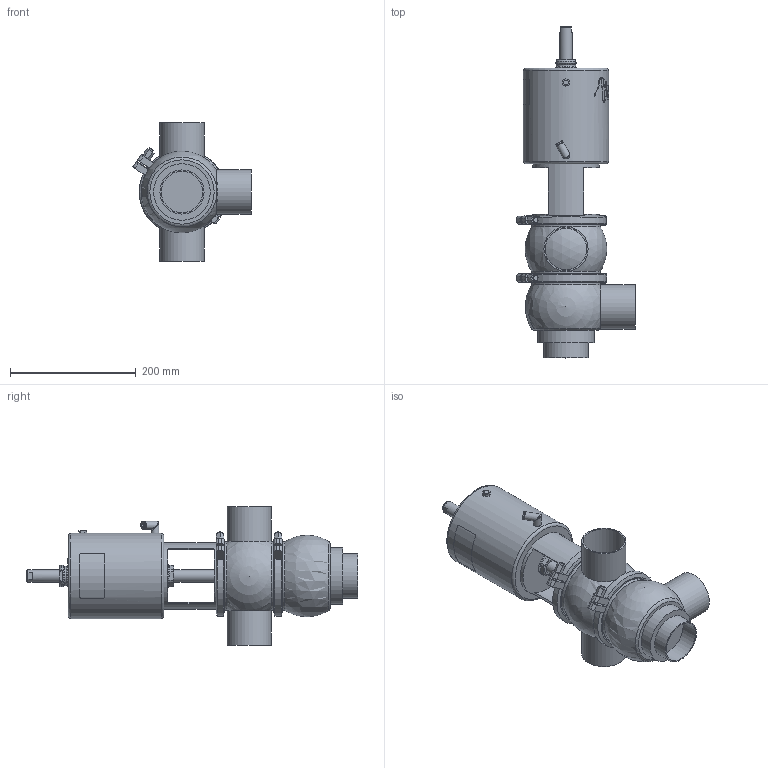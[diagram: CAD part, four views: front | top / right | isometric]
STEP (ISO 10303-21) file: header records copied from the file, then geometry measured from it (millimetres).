
FILE_DESCRIPTION (( 'STEP AP214' ), '1' );
FILE_NAME ('INNOVA K E W DIN 065 T3 AS NC_10.240.16.0022.STEP', '2024-08-06T10:51:57', ( '' ), ( '' ), 'SwSTEP 2.0', 'SolidWorks 2023', '' );
FILE_SCHEMA (( 'AUTOMOTIVE_DESIGN' ));
Length unit declared in the file: millimetre
Products named in the file (6): 10.240.15.0002_DIN 065; 10.240.15.0007_DIN 065; 10.240.15.0010_DN 065; 10.240.15.0001_DN 065; 10.240.15.0014_T3 AS P0; INNOVA K E W DIN 065 T3 AS NC_10.240.16.0022
Assembly tree (6 placements, depth 2):
  INNOVA K E W DIN 065 T3 AS NC_10.240.16.0022
    10.240.15.0007_DIN 065
    10.240.15.0002_DIN 065
    10.240.15.0010_DN 065
    10.240.15.0014_T3 AS P0
    10.240.15.0001_DN 065  x2
Bounding box: 188.15 x 527.5 x 220 mm (x, y, z)
Volume: 4721439.8 mm3; surface area: 414709.5 mm2
Topology: 6 solids, 6 shells, 404 faces, 1058 edges, 693 vertices
Faces by surface type: plane 197, cylinder 91, bspline 80, cone 26, sphere 5, torus 5
Full cylindrical faces by diameter (mm): 6.15 x1, 8 x5, 8.5 x1, 10.5 x1, 12.5 x3, 16 x1, 20 x2, 31 x1, 34.5 x2, 36.5 x1, 66 x4, 70 x4, 90 x1, 105 x1, 109 x3, 121 x4, 136 x1
Entity records: 20821 total; most frequent: CARTESIAN_POINT 11422, ORIENTED_EDGE 1632, DIRECTION 1273, EDGE_CURVE 816, VERTEX_POINT 566, AXIS2_PLACEMENT_3D 492, EDGE_LOOP 436, FACE_OUTER_BOUND 387
